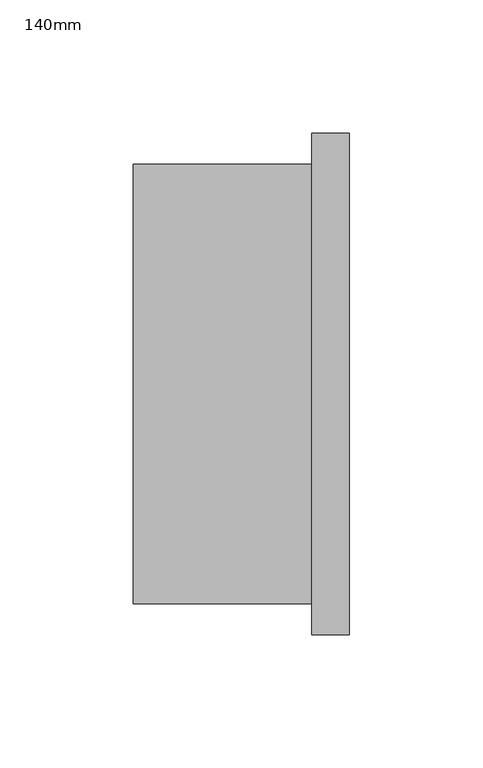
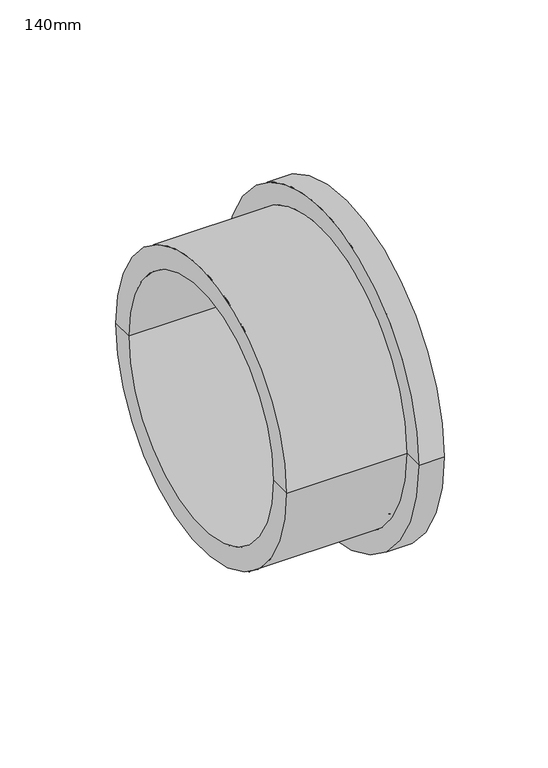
"""IFC4 building model written with IfcOpenShell, lengths in millimetres: pipe fitting geometry, Durapipe_PipeFitting_PVC_StubFlange : 140mm."""

from ifc_helpers import new_model, si_unit, frame, origin, place, context, project, spatial, polyline, circle_curve, source, transform, mapped, element, save
from ifc_brep_helpers import plane_surface, cylinder_surface, revolved_surface, advanced_brep


def pipe_fitting_140mm_497a3cd5(model_context):
    return source(origin(), model_context, "Body", "AdvancedBrep", [
        advanced_brep(
        [(40.5, -94.0, 0.0), (40.5, 94.0, 0.0), (40.5, 79.95, 0.0), (40.5, -79.95, 0.0), (40.5, 62.5, 0.0), (40.5, -62.5, 0.0), (40.5, -76.2220779, 0.0), (40.5, 76.2220779, 0.0), (26.5, -94.0, 0.0), (26.5, 94.0, 0.0), (26.5, -82.5, 0.0), (26.5, 82.5, 0.0), (-40.5, -82.5, 0.0), (-40.5, 82.5, 0.0), (-40.5, -70.0, 0.0), (-40.5, 70.0, 0.0), (35.5, -70.0, 0.0), (35.5, 70.0, 0.0), (40.5, 77.4647186, 0.0), (39.0, 76.8433983, 0.0), (39.0, -76.8433983, 0.0), (40.5, -77.4647186, 0.0), (39.0, -78.086039, 0.0), (39.0, 78.086039, 0.0), (40.5, -78.7073593, 0.0), (40.5, 78.7073593, 0.0), (39.0, -79.3286797, 0.0), (39.0, 79.3286797, 0.0), (35.5, 62.5, 0.0), (35.5, -62.5, 0.0)],
        [
            (0, 1, circle_curve(frame((40.5, 0.0, 0.0), z_axis=(1.0, 0.0, 0.0), x_axis=(0.0, 1.0, 0.0)), 94.0)),
            (1, 2),
            (2, 3, circle_curve(frame((40.5, 0.0, 0.0), z_axis=(-1.0, 0.0, 0.0), x_axis=(0.0, -1.0, 0.0)), 79.95)),
            (3, 0),
            (4, 5, circle_curve(frame((40.5, 0.0, 0.0), z_axis=(-1.0, 0.0, 0.0), x_axis=(0.0, 1.0, 0.0)), 62.5)),
            (5, 6),
            (6, 7, circle_curve(frame((40.5, 0.0, 0.0), z_axis=(1.0, 0.0, 0.0), x_axis=(0.0, -1.0, 0.0)), 76.2220779)),
            (7, 4),
            (1, 0, circle_curve(frame((40.5, 0.0, 0.0), z_axis=(1.0, 0.0, 0.0), x_axis=(0.0, 1.0, 0.0)), 94.0)),
            (3, 2, circle_curve(frame((40.5, 0.0, 0.0), z_axis=(-1.0, 0.0, 0.0), x_axis=(0.0, 1.0, 0.0)), 79.95)),
            (5, 4, circle_curve(frame((40.5, 0.0, 0.0), z_axis=(-1.0, 0.0, 0.0), x_axis=(0.0, 1.0, 0.0)), 62.5)),
            (7, 6, circle_curve(frame((40.5, 0.0, 0.0), z_axis=(1.0, 0.0, 0.0), x_axis=(0.0, 1.0, 0.0)), 76.2220779)),
            (0, 8),
            (8, 9, circle_curve(frame((26.5, 0.0, 0.0), z_axis=(1.0, 0.0, 0.0), x_axis=(0.0, 1.0, 0.0)), 94.0)),
            (9, 1),
            (9, 8, circle_curve(frame((26.5, 0.0, 0.0), z_axis=(1.0, 0.0, 0.0), x_axis=(0.0, 1.0, 0.0)), 94.0)),
            (8, 10),
            (10, 11, circle_curve(frame((26.5, 0.0, 0.0), z_axis=(1.0, 0.0, 0.0), x_axis=(0.0, 1.0, 0.0)), 82.5)),
            (11, 9),
            (11, 10, circle_curve(frame((26.5, 0.0, 0.0), z_axis=(1.0, 0.0, 0.0), x_axis=(0.0, 1.0, 0.0)), 82.5)),
            (10, 12),
            (12, 13, circle_curve(frame((-40.5, 0.0, 0.0), z_axis=(1.0, 0.0, 0.0), x_axis=(0.0, 1.0, 0.0)), 82.5)),
            (13, 11),
            (13, 12, circle_curve(frame((-40.5, 0.0, 0.0), z_axis=(1.0, 0.0, 0.0), x_axis=(0.0, 1.0, 0.0)), 82.5)),
            (12, 14),
            (14, 15, circle_curve(frame((-40.5, 0.0, 0.0), z_axis=(1.0, 0.0, 0.0), x_axis=(0.0, 1.0, 0.0)), 70.0)),
            (15, 13),
            (15, 14, circle_curve(frame((-40.5, 0.0, 0.0), z_axis=(1.0, 0.0, 0.0), x_axis=(0.0, 1.0, 0.0)), 70.0)),
            (14, 16),
            (16, 17, circle_curve(frame((35.5, 0.0, 0.0), z_axis=(1.0, 0.0, 0.0), x_axis=(0.0, 1.0, 0.0)), 70.0)),
            (17, 15),
            (17, 16, circle_curve(frame((35.5, 0.0, 0.0), z_axis=(1.0, 0.0, 0.0), x_axis=(0.0, 1.0, 0.0)), 70.0)),
            (18, 19),
            (19, 20, circle_curve(frame((39.0, 0.0, 0.0), z_axis=(-1.0, 0.0, 0.0), x_axis=(0.0, -1.0, 0.0)), 76.8433983)),
            (20, 21),
            (21, 18, circle_curve(frame((40.5, 0.0, 0.0), z_axis=(1.0, 0.0, 0.0), x_axis=(0.0, -1.0, 0.0)), 77.4647186)),
            (21, 22),
            (22, 23, circle_curve(frame((39.0, 0.0, 0.0), z_axis=(1.0, 0.0, 0.0), x_axis=(0.0, -1.0, 0.0)), 78.086039)),
            (23, 18),
            (22, 24),
            (24, 25, circle_curve(frame((40.5, 0.0, 0.0), z_axis=(1.0, 0.0, 0.0), x_axis=(0.0, -1.0, 0.0)), 78.7073593)),
            (25, 23),
            (24, 26),
            (26, 27, circle_curve(frame((39.0, 0.0, 0.0), z_axis=(1.0, 0.0, 0.0), x_axis=(0.0, -1.0, 0.0)), 79.3286797)),
            (27, 25),
            (26, 3),
            (2, 27),
            (19, 7),
            (6, 20),
            (18, 21, circle_curve(frame((40.5, 0.0, 0.0), z_axis=(1.0, 0.0, 0.0), x_axis=(0.0, 1.0, 0.0)), 77.4647186)),
            (20, 19, circle_curve(frame((39.0, 0.0, 0.0), z_axis=(-1.0, 0.0, 0.0), x_axis=(0.0, 1.0, 0.0)), 76.8433983)),
            (23, 22, circle_curve(frame((39.0, 0.0, 0.0), z_axis=(1.0, 0.0, 0.0), x_axis=(0.0, 1.0, 0.0)), 78.086039)),
            (25, 24, circle_curve(frame((40.5, 0.0, 0.0), z_axis=(1.0, 0.0, 0.0), x_axis=(0.0, 1.0, 0.0)), 78.7073593)),
            (27, 26, circle_curve(frame((39.0, 0.0, 0.0), z_axis=(1.0, 0.0, 0.0), x_axis=(0.0, 1.0, 0.0)), 79.3286797)),
            (4, 28),
            (28, 29, circle_curve(frame((35.5, 0.0, 0.0), z_axis=(-1.0, 0.0, 0.0), x_axis=(0.0, 1.0, 0.0)), 62.5)),
            (29, 5),
            (29, 28, circle_curve(frame((35.5, 0.0, 0.0), z_axis=(-1.0, 0.0, 0.0), x_axis=(0.0, 1.0, 0.0)), 62.5)),
            (16, 29),
            (28, 17),
        ],
        [
            plane_surface(frame((40.5, 0.0, 0.0), z_axis=(1.0, 0.0, 0.0), x_axis=(0.0, 1.0, 0.0))),
            cylinder_surface(frame((43.6035546, 0.0, 0.0), z_axis=(-1.0, 0.0, 0.0), x_axis=(0.0, 1.0, 0.0)), 94.0),
            plane_surface(frame((26.5, 0.0, 0.0), z_axis=(-1.0, 0.0, 0.0), x_axis=(0.0, 1.0, 0.0))),
            cylinder_surface(frame((43.6035546, 0.0, 0.0), z_axis=(-1.0, 0.0, 0.0), x_axis=(0.0, 1.0, 0.0)), 82.5),
            plane_surface(frame((-40.5, 0.0, 0.0), z_axis=(-1.0, 0.0, 0.0), x_axis=(0.0, 1.0, 0.0))),
            revolved_surface(polyline([(-40.5, 70.0, 0.0), (35.5, 70.0, 0.0)]), (-42.3250714, 0.0, 0.0), (-1.0, 0.0, 0.0)),
            revolved_surface(polyline([(40.5, -77.4647186, 0.0), (39.0, -76.8433983, 0.0)]), (40.5, 0.0, 0.0), (1.0, 0.0, 0.0)),
            revolved_surface(polyline([(39.0, -78.086039, 0.0), (40.5, -77.4647186, 0.0)]), (40.5, 0.0, 0.0), (1.0, 0.0, 0.0)),
            revolved_surface(polyline([(40.5, -78.7073593, 0.0), (39.0, -78.086039, 0.0)]), (40.5, 0.0, 0.0), (1.0, 0.0, 0.0)),
            revolved_surface(polyline([(39.0, -79.3286797, 0.0), (40.5, -78.7073593, 0.0)]), (40.5, 0.0, 0.0), (1.0, 0.0, 0.0)),
            revolved_surface(polyline([(40.5, -79.95, 0.0), (39.0, -79.3286797, 0.0)]), (40.5, 0.0, 0.0), (1.0, 0.0, 0.0)),
            revolved_surface(polyline([(39.0, -76.8433983, 0.0), (40.5, -76.2220779, 0.0)]), (40.5, 0.0, 0.0), (1.0, 0.0, 0.0)),
            revolved_surface(polyline([(40.5, 77.4647186, 0.0), (39.0, 76.8433983, 0.0)]), (40.5, 0.0, 0.0), (1.0, 0.0, 0.0)),
            revolved_surface(polyline([(39.0, 78.086039, 0.0), (40.5, 77.4647186, 0.0)]), (40.5, 0.0, 0.0), (1.0, 0.0, 0.0)),
            revolved_surface(polyline([(40.5, 78.7073593, 0.0), (39.0, 78.086039, 0.0)]), (40.5, 0.0, 0.0), (1.0, 0.0, 0.0)),
            revolved_surface(polyline([(39.0, 79.3286797, 0.0), (40.5, 78.7073593, 0.0)]), (40.5, 0.0, 0.0), (1.0, 0.0, 0.0)),
            revolved_surface(polyline([(40.5, 79.95, 0.0), (39.0, 79.3286797, 0.0)]), (40.5, 0.0, 0.0), (1.0, 0.0, 0.0)),
            revolved_surface(polyline([(39.0, 76.8433983, 0.0), (40.5, 76.2220779, 0.0)]), (40.5, 0.0, 0.0), (1.0, 0.0, 0.0)),
            revolved_surface(polyline([(35.5, 62.5, 0.0), (40.5, 62.5, 0.0)]), (43.6035546, 0.0, 0.0), (-1.0, 0.0, 0.0)),
            plane_surface(frame((35.5, 0.0, 0.0), z_axis=(-1.0, 0.0, 0.0), x_axis=(0.0, 1.0, 0.0))),
        ],
        [
            (0, [[1, 2, 3, 4]]),
            (0, [[5, 6, 7, 8]]),
            (0, [[9, -4, 10, -2]]),
            (0, [[11, -8, 12, -6]]),
            (1, [[-1, 13, 14, 15]]),
            (1, [[-9, -15, 16, -13]]),
            (2, [[-14, 17, 18, 19]]),
            (2, [[-16, -19, 20, -17]]),
            (3, [[-18, 21, 22, 23]]),
            (3, [[-20, -23, 24, -21]]),
            (4, [[-22, 25, 26, 27]]),
            (4, [[-24, -27, 28, -25]]),
            (5, [[29, 30, 31, -26]]),
            (5, [[-29, -28, -31, 32]]),
            (6, [[33, 34, 35, 36]]),
            (7, [[-36, 37, 38, 39]]),
            (8, [[-38, 40, 41, 42]]),
            (9, [[-41, 43, 44, 45]]),
            (10, [[-44, 46, -3, 47]]),
            (11, [[-34, 48, -7, 49]]),
            (12, [[-33, 50, -35, 51]]),
            (13, [[-39, 52, -37, -50]]),
            (14, [[-42, 53, -40, -52]]),
            (15, [[-45, 54, -43, -53]]),
            (16, [[-47, -10, -46, -54]]),
            (17, [[-48, -51, -49, -12]]),
            (18, [[-5, 55, 56, 57]]),
            (18, [[-11, -57, 58, -55]]),
            (19, [[-30, 59, -56, 60]]),
            (19, [[-32, -60, -58, -59]]),
        ],
    ),
    ])


if __name__ == "__main__":
    model = new_model("IFC4")
    model_context = context("Model", 3, world=origin())
    ifc_project = project(units=[si_unit("LENGTHUNIT", "METRE", prefix="MILLI")], contexts=[model_context])
    site = spatial("IfcSite", under=ifc_project)
    building = spatial("IfcBuilding", under=site)
    placement = place(None, origin())
    pipe_fitting_140mm_shape = pipe_fitting_140mm_497a3cd5(model_context)
    element("IfcPipeFitting", 1, ObjectType="Durapipe_PipeFitting_PVC_StubFlange : 140mm", at=placement, inside=building, context=model_context, shape_type="MappedRepresentation", body=[
        mapped(pipe_fitting_140mm_shape, transform((0.0, 0.0, 0.0), x_axis=(1.0, 0.0, 0.0), y_axis=(0.0, 1.0, 0.0), z_axis=(0.0, 0.0, 1.0))),
    ])
    save(model, "model.ifc")
